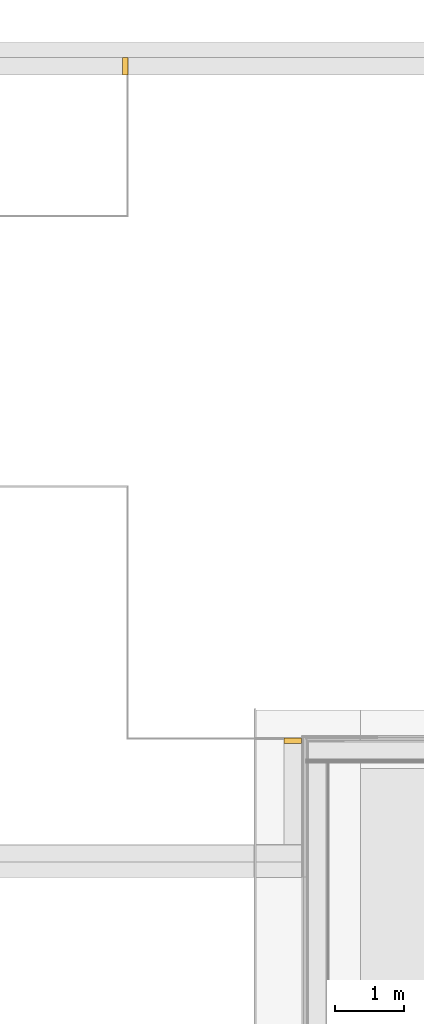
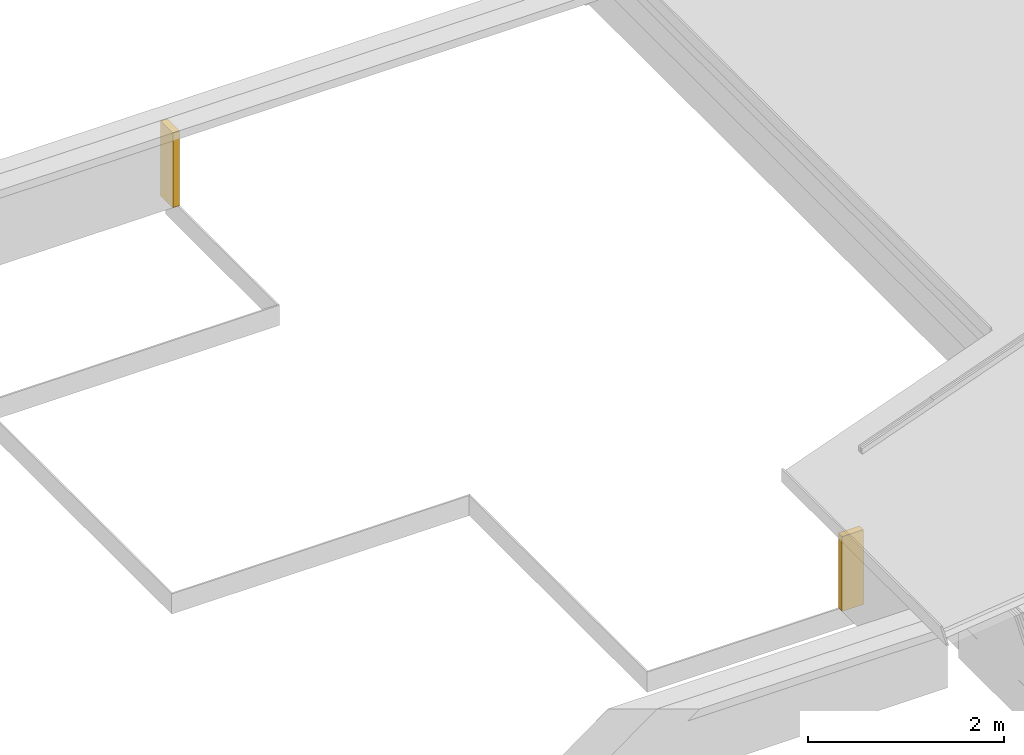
# One storey, part 12 of 12: 2 coverings.
"""IFC4 building model written with IfcOpenShell, lengths in millimetres."""

from ifc_helpers import new_model, entity, si_unit, converted_unit, derived_unit, direction, frame, origin_with_axes, place, context, subcontext, project, spatial, polygons, material, type_object, element, save


model = new_model("IFC4")

# Units and contexts
model_context = context("Model", 3, precision=0.01, world=origin_with_axes(), true_north=direction((0.0, 1.0)))
body_context = subcontext(model_context, "Body", "Model", "MODEL_VIEW")
ifc_project = project(units=[si_unit("LENGTHUNIT", "METRE", prefix="MILLI"), si_unit("AREAUNIT", "SQUARE_METRE"), si_unit("VOLUMEUNIT", "CUBIC_METRE"), converted_unit("PLANEANGLEUNIT", "DEGREE", entity("IfcPlaneAngleMeasure", 0.0174532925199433), si_unit("PLANEANGLEUNIT", "RADIAN"), dimensions=[0, 0, 0, 0, 0, 0, 0]), converted_unit("TIMEUNIT", "Year", entity("IfcTimeMeasure", 31557600.0), si_unit("TIMEUNIT", "SECOND"), dimensions=[0, 0, 1, 0, 0, 0, 0]), si_unit("MASSUNIT", "GRAM", prefix="KILO"), si_unit("THERMODYNAMICTEMPERATUREUNIT", "DEGREE_CELSIUS"), si_unit("LUMINOUSINTENSITYUNIT", "LUMEN"), si_unit("ENERGYUNIT", "JOULE", prefix="MEGA"), derived_unit("THERMALCONDUCTANCEUNIT", [(si_unit("POWERUNIT", "WATT"), 1), (si_unit("LENGTHUNIT", "METRE"), -1), (si_unit("THERMODYNAMICTEMPERATUREUNIT", "KELVIN"), -1)]), derived_unit("SPECIFICHEATCAPACITYUNIT", [(si_unit("ENERGYUNIT", "JOULE"), 1), (si_unit("MASSUNIT", "GRAM", prefix="KILO"), -1), (si_unit("THERMODYNAMICTEMPERATUREUNIT", "KELVIN"), -1)]), derived_unit("MASSDENSITYUNIT", [(si_unit("MASSUNIT", "GRAM", prefix="KILO"), 1), (si_unit("VOLUMEUNIT", "CUBIC_METRE"), -1)])], contexts=[model_context])

# Site, building, storey
site_placement = place(None, origin_with_axes())
site = spatial("IfcSite", under=ifc_project, at=site_placement, Name="Gelände", CompositionType="ELEMENT")
building_placement = place(site_placement, origin_with_axes())
building = spatial("IfcBuilding", under=site, at=building_placement, Name="Gebäude", CompositionType="ELEMENT")
storey_placement = place(building_placement, frame((0.0, 0.0, 11600.0), z_axis=(0.0, 0.0, 1.0), x_axis=(1.0, 0.0, 0.0)))
storey = spatial("IfcBuildingStorey", under=building, at=storey_placement, Name="Dachaufsicht", CompositionType="ELEMENT", Elevation=11600.0)

# Coverings
ifc_material = material(Name="Dämmung Aussen")
covering_type = type_object("IfcCoveringType", Name="Dämmung Aussen 80 x 250", PredefinedType="NOTDEFINED")
covering_1_placement = place(storey_placement, frame((17794.99744477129, 27907.59728131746, -5.198845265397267e-05), z_axis=(0.0, 0.0, 1.0), x_axis=(0.0, 1.0, 0.0)))
element("IfcCovering", 1, at=covering_1_placement, inside=storey, type_object=covering_type, material=ifc_material, Name="Stütze-016", PredefinedType="NOTDEFINED", context=body_context, shape_type="Tessellation", body=[
    polygons([(39.99999999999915, -125.0, 0.0), (39.99999999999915, -125.0, 931.0000518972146), (-39.99999999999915, -125.0, 931.0000518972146), (-39.99999999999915, -125.0, 0.0), (39.99999999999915, 125.0, 0.0), (39.99999999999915, 125.0, 931.0000518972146), (-39.99999999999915, 125.0, 931.0000518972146), (-39.99999999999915, 125.0, 0.0)], [[[1, 2, 3, 4]], [[5, 6, 2, 1]], [[2, 6, 7, 3]], [[4, 3, 7, 8]], [[8, 5, 1, 4]], [[8, 7, 6, 5]]], closed=True),
])
covering_2_placement = place(storey_placement, frame((15388.99744477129, 37612.59728131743, -5.198845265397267e-05), z_axis=(0.0, 0.0, 1.0), x_axis=(1.0, 0.0, 0.0)))
element("IfcCovering", 2, at=covering_2_placement, inside=storey, type_object=covering_type, material=ifc_material, Name="Stütze-016", PredefinedType="NOTDEFINED", context=body_context, shape_type="Tessellation", body=[
    polygons([(-40.00000000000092, -125.0, 0.0), (39.99999999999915, -125.0, 0.0), (39.99999999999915, -125.0, 931.0000518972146), (-40.00000000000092, -125.0, 931.0000518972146), (-40.00000000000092, 125.0, 0.0), (39.99999999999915, 125.0, 0.0), (39.99999999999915, 125.0, 931.0000518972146), (-40.00000000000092, 125.0, 931.0000518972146)], [[[1, 2, 3, 4]], [[1, 5, 6, 2]], [[2, 6, 7, 3]], [[4, 3, 7, 8]], [[5, 1, 4, 8]], [[6, 5, 8, 7]]], closed=True),
])

save(model, "model.ifc")
